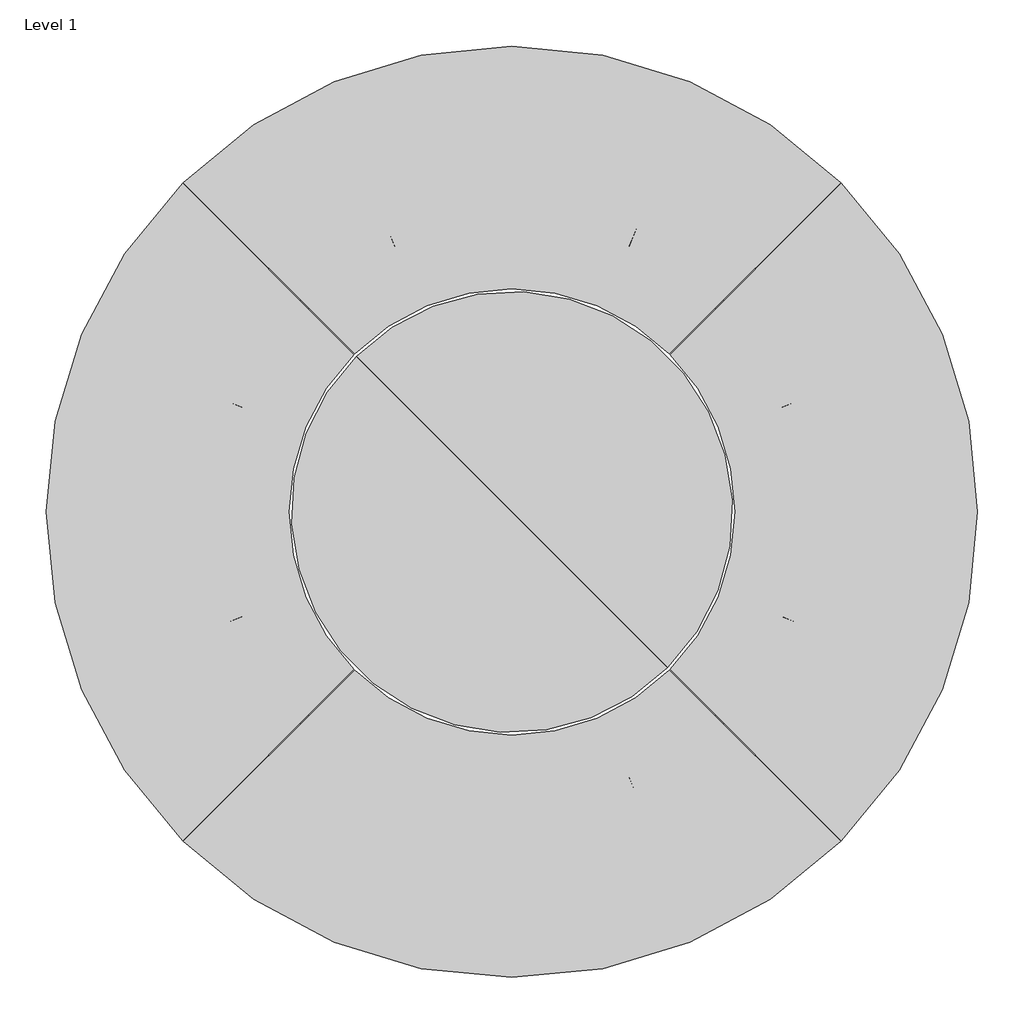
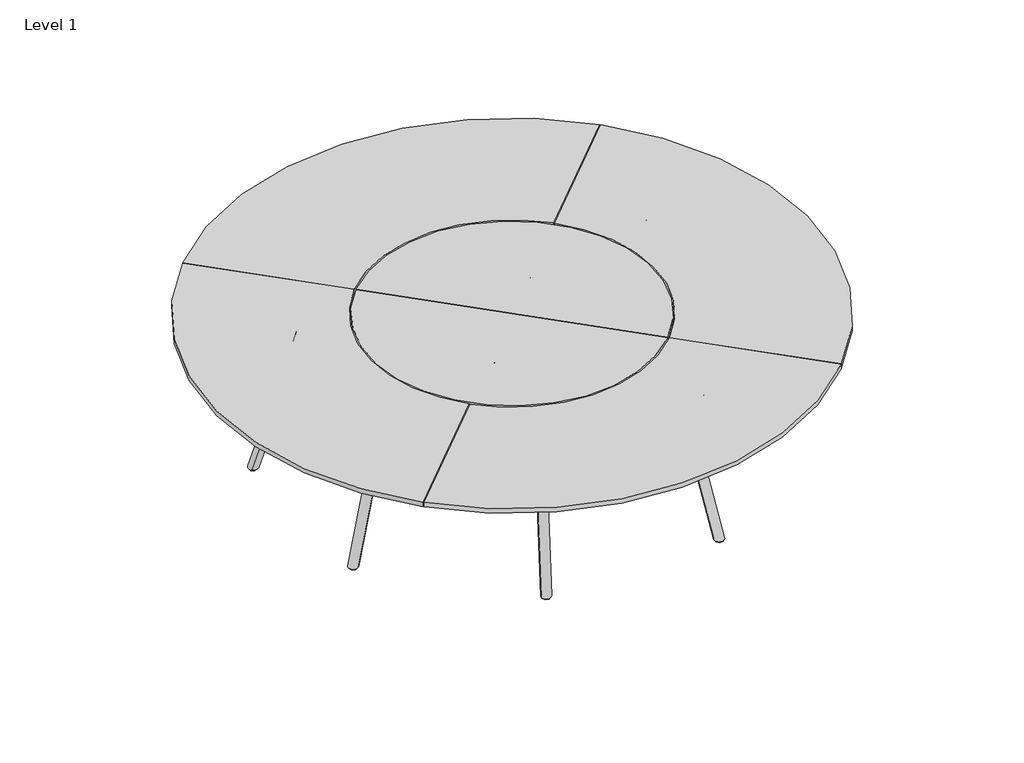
# One storey, incomplete: 1 furniture element.
"""IFC4 building model written with IfcOpenShell, lengths in millimetres."""

from ifc_helpers import new_model, si_unit, origin, place, context, project, spatial, transform, mapped, element, save
from components import table_8_person_table_8_person_3cccb7cd, table_8_person_table_8_person_554a9362

model = new_model("IFC4")

# Units and contexts
model_context = context("Model", 3, world=origin())
ifc_project = project(units=[si_unit("LENGTHUNIT", "METRE", prefix="MILLI")], contexts=[model_context])

# Site, building, storey
site = spatial("IfcSite", under=ifc_project)
building = spatial("IfcBuilding", under=site)
storey = spatial("IfcBuildingStorey", under=building, Name="Level 1", Elevation=0.0)

# Furniture
placement = place(None, origin())
table_8_person_table_8_person_shape = table_8_person_table_8_person_3cccb7cd(model_context)
table_8_person_table_8_person_2_shape = table_8_person_table_8_person_554a9362(model_context)
element("IfcFurniture", 1, ObjectType="TABLE_8 _PERSON : TABLE_8 _PERSON", at=placement, inside=storey, context=model_context, shape_type="MappedRepresentation", body=[
    mapped(table_8_person_table_8_person_shape, transform((11241.7439699, 1911.124575, 0.0), x_axis=(1.0, 0.0, 0.0), y_axis=(0.0, 1.0, 0.0), z_axis=(0.0, 0.0, 1.0))),
    mapped(table_8_person_table_8_person_2_shape, transform((11241.7439699, 1911.124575, 0.0), x_axis=(1.0, 0.0, 0.0), y_axis=(0.0, 1.0, 0.0), z_axis=(0.0, 0.0, 1.0))),
])

save(model, "model.ifc")
